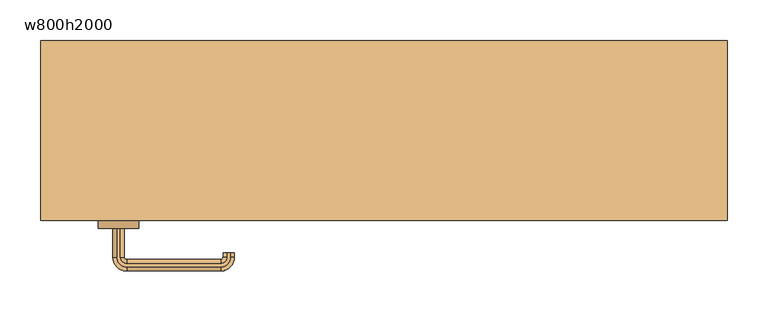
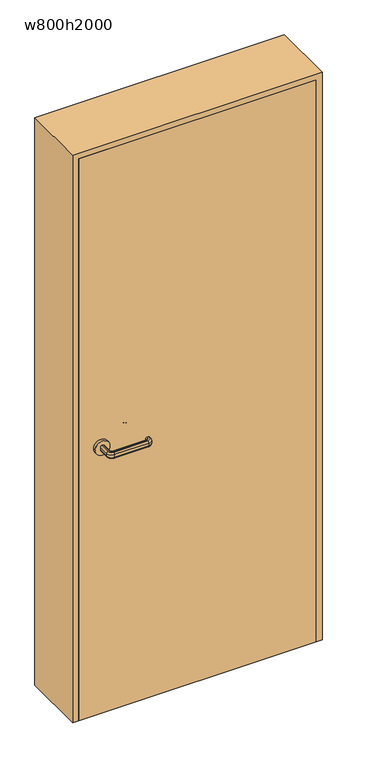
"""IFC4 building model written with IfcOpenShell, lengths in millimetres: door geometry, 片開 : w800h2000."""

from ifc_helpers import new_model, si_unit, point, frame, frame_2d, origin, origin_with_axes, place, context, project, spatial, polyline, circle_curve, ellipse_curve, trimmed, segment, composite_curve, outline, extrude, source, transform, mapped, element, save
from ifc_brep_helpers import plane_surface, cylinder_surface, revolved_surface, advanced_brep


def w800h2000_1d97c4d4(model_context):
    return source(origin(), model_context, "Body", "SolidModel", [
        advanced_brep(
        [(-327.0, -120.0, 960.0), (-323.0, -120.0, 960.0), (-318.0, -120.0, 955.0), (-318.0, -120.0, 945.0477623), (-323.0, -120.0, 940.0477623), (-327.0, -120.0, 940.0477623), (-332.0, -120.0, 945.0477623), (-332.0, -120.0, 955.0), (-332.0, -155.0, 955.0), (-327.0, -155.0, 960.0), (-332.0, -155.0, 945.0477623), (-327.0, -155.0, 940.0477623), (-323.0, -155.0, 940.0477623), (-315.0, -163.0, 940.0477623), (-200.0, -163.0, 940.0477623), (-192.0, -155.0, 940.0477623), (-192.0, -150.0, 940.0477623), (-188.0, -150.0, 940.0477623), (-188.0, -155.0, 940.0477623), (-200.0, -167.0, 940.0477623), (-315.0, -167.0, 940.0477623), (-318.0, -155.0, 945.0477623), (-318.0, -155.0, 955.0), (-323.0, -155.0, 960.0), (-315.0, -167.0, 960.0), (-200.0, -167.0, 960.0), (-188.0, -155.0, 960.0), (-188.0, -150.0, 960.0), (-192.0, -150.0, 960.0), (-192.0, -155.0, 960.0), (-200.0, -163.0, 960.0), (-315.0, -163.0, 960.0), (-315.0, -172.0, 955.0), (-315.0, -172.0, 945.0477623), (-315.0, -158.0, 945.0477623), (-315.0, -158.0, 955.0), (-200.0, -172.0, 955.0), (-200.0, -172.0, 945.0477623), (-200.0, -158.0, 945.0477623), (-200.0, -158.0, 955.0), (-183.0, -155.0, 955.0), (-183.0, -155.0, 945.0477623), (-197.0, -155.0, 945.0477623), (-197.0, -155.0, 955.0), (-183.0, -150.0, 955.0), (-183.0, -150.0, 945.0477623), (-197.0, -150.0, 945.0477623), (-197.0, -150.0, 955.0)],
        [
            (0, 1),
            (1, 2, circle_curve(frame((-323.0, -120.0, 955.0), z_axis=(0.0, 1.0, 0.0), x_axis=(-1.0, 0.0, 0.0)), 5.0)),
            (2, 3),
            (3, 4, circle_curve(frame((-323.0, -120.0, 945.0477623), z_axis=(0.0, 1.0, 0.0), x_axis=(-1.0, 0.0, 0.0)), 5.0)),
            (4, 5),
            (5, 6, circle_curve(frame((-327.0, -120.0, 945.0477623), z_axis=(0.0, 1.0, 0.0), x_axis=(-1.0, 0.0, 0.0)), 5.0)),
            (6, 7),
            (7, 0, circle_curve(frame((-327.0, -120.0, 955.0), z_axis=(0.0, 1.0, 0.0), x_axis=(-1.0, 0.0, 0.0)), 5.0)),
            (7, 8),
            (8, 9, circle_curve(frame((-327.0, -155.0, 955.0), z_axis=(0.0, 1.0, 0.0), x_axis=(-1.0, 0.0, 0.0)), 5.0)),
            (9, 0),
            (6, 10),
            (10, 8),
            (5, 11),
            (11, 10, circle_curve(frame((-327.0, -155.0, 945.0477623), z_axis=(0.0, 1.0, 0.0), x_axis=(-1.0, 0.0, 0.0)), 5.0)),
            (4, 12),
            (12, 13, circle_curve(frame((-315.0, -155.0, 940.0477623), z_axis=(0.0, 0.0, 1.0), x_axis=(-1.0, 0.0, 0.0)), 8.0)),
            (13, 14),
            (14, 15, circle_curve(frame((-200.0, -155.0, 940.0477623), z_axis=(0.0, 0.0, 1.0), x_axis=(0.0, -1.0, 0.0)), 8.0)),
            (15, 16),
            (16, 17),
            (17, 18),
            (18, 19, circle_curve(frame((-200.0, -155.0, 940.0477623), z_axis=(0.0, 0.0, -1.0), x_axis=(0.0, -1.0, 0.0)), 12.0)),
            (19, 20),
            (20, 11, circle_curve(frame((-315.0, -155.0, 940.0477623), z_axis=(0.0, 0.0, -1.0), x_axis=(-1.0, 0.0, 0.0)), 12.0)),
            (3, 21),
            (21, 12, circle_curve(frame((-323.0, -155.0, 945.0477623), z_axis=(0.0, 1.0, 0.0), x_axis=(-1.0, 0.0, 0.0)), 5.0)),
            (2, 22),
            (22, 21),
            (1, 23),
            (23, 22, circle_curve(frame((-323.0, -155.0, 955.0), z_axis=(0.0, 1.0, 0.0), x_axis=(-1.0, 0.0, 0.0)), 5.0)),
            (9, 24, circle_curve(frame((-315.0, -155.0, 960.0), z_axis=(0.0, 0.0, 1.0), x_axis=(-1.0, 0.0, 0.0)), 12.0)),
            (24, 25),
            (25, 26, circle_curve(frame((-200.0, -155.0, 960.0), z_axis=(0.0, 0.0, 1.0), x_axis=(0.0, -1.0, 0.0)), 12.0)),
            (26, 27),
            (27, 28),
            (28, 29),
            (29, 30, circle_curve(frame((-200.0, -155.0, 960.0), z_axis=(0.0, 0.0, -1.0), x_axis=(0.0, -1.0, 0.0)), 8.0)),
            (30, 31),
            (31, 23, circle_curve(frame((-315.0, -155.0, 960.0), z_axis=(0.0, 0.0, -1.0), x_axis=(-1.0, 0.0, 0.0)), 8.0)),
            (32, 24, circle_curve(frame((-315.0, -167.0, 955.0), z_axis=(-1.0, 0.0, 0.0), x_axis=(0.0, -1.0, 0.0)), 5.0)),
            (8, 32, circle_curve(frame((-315.0, -155.0, 955.0), z_axis=(0.0, 0.0, 1.0), x_axis=(-1.0, 0.0, 0.0)), 17.0)),
            (33, 32),
            (10, 33, circle_curve(frame((-315.0, -155.0, 945.0477623), z_axis=(0.0, 0.0, 1.0), x_axis=(-1.0, 0.0, 0.0)), 17.0)),
            (20, 33, circle_curve(frame((-315.0, -167.0, 945.0477623), z_axis=(-1.0, 0.0, 0.0), x_axis=(0.0, -1.0, 0.0)), 5.0)),
            (34, 13, circle_curve(frame((-315.0, -163.0, 945.0477623), z_axis=(-1.0, 0.0, 0.0), x_axis=(0.0, -1.0, 0.0)), 5.0)),
            (21, 34, circle_curve(frame((-315.0, -155.0, 945.0477623), z_axis=(0.0, 0.0, 1.0), x_axis=(-1.0, 0.0, 0.0)), 3.0)),
            (35, 34),
            (22, 35, circle_curve(frame((-315.0, -155.0, 955.0), z_axis=(0.0, 0.0, 1.0), x_axis=(-1.0, 0.0, 0.0)), 3.0)),
            (31, 35, circle_curve(frame((-315.0, -163.0, 955.0), z_axis=(-1.0, 0.0, 0.0), x_axis=(0.0, -1.0, 0.0)), 5.0)),
            (32, 36),
            (36, 25, circle_curve(frame((-200.0, -167.0, 955.0), z_axis=(-1.0, 0.0, 0.0), x_axis=(0.0, -1.0, 0.0)), 5.0)),
            (33, 37),
            (37, 36),
            (19, 37, circle_curve(frame((-200.0, -167.0, 945.0477623), z_axis=(-1.0, 0.0, 0.0), x_axis=(0.0, -1.0, 0.0)), 5.0)),
            (34, 38),
            (38, 14, circle_curve(frame((-200.0, -163.0, 945.0477623), z_axis=(-1.0, 0.0, 0.0), x_axis=(0.0, -1.0, 0.0)), 5.0)),
            (35, 39),
            (39, 38),
            (30, 39, circle_curve(frame((-200.0, -163.0, 955.0), z_axis=(-1.0, 0.0, 0.0), x_axis=(0.0, -1.0, 0.0)), 5.0)),
            (40, 26, circle_curve(frame((-188.0, -155.0, 955.0), z_axis=(0.0, -1.0, 0.0), x_axis=(1.0, 0.0, 0.0)), 5.0)),
            (36, 40, circle_curve(frame((-200.0, -155.0, 955.0), z_axis=(0.0, 0.0, 1.0), x_axis=(0.0, -1.0, 0.0)), 17.0)),
            (41, 40),
            (37, 41, circle_curve(frame((-200.0, -155.0, 945.0477623), z_axis=(0.0, 0.0, 1.0), x_axis=(0.0, -1.0, 0.0)), 17.0)),
            (18, 41, circle_curve(frame((-188.0, -155.0, 945.0477623), z_axis=(0.0, -1.0, 0.0), x_axis=(1.0, 0.0, 0.0)), 5.0)),
            (42, 15, circle_curve(frame((-192.0, -155.0, 945.0477623), z_axis=(0.0, -1.0, 0.0), x_axis=(1.0, 0.0, 0.0)), 5.0)),
            (38, 42, circle_curve(frame((-200.0, -155.0, 945.0477623), z_axis=(0.0, 0.0, 1.0), x_axis=(0.0, -1.0, 0.0)), 3.0)),
            (43, 42),
            (39, 43, circle_curve(frame((-200.0, -155.0, 955.0), z_axis=(0.0, 0.0, 1.0), x_axis=(0.0, -1.0, 0.0)), 3.0)),
            (29, 43, circle_curve(frame((-192.0, -155.0, 955.0), z_axis=(0.0, -1.0, 0.0), x_axis=(1.0, 0.0, 0.0)), 5.0)),
            (27, 44, circle_curve(frame((-188.0, -150.0, 955.0), z_axis=(0.0, 1.0, 0.0), x_axis=(1.0, 0.0, 0.0)), 5.0)),
            (44, 45),
            (45, 17, circle_curve(frame((-188.0, -150.0, 945.0477623), z_axis=(0.0, 1.0, 0.0), x_axis=(1.0, 0.0, 0.0)), 5.0)),
            (16, 46, circle_curve(frame((-192.0, -150.0, 945.0477623), z_axis=(0.0, 1.0, 0.0), x_axis=(1.0, 0.0, 0.0)), 5.0)),
            (46, 47),
            (47, 28, circle_curve(frame((-192.0, -150.0, 955.0), z_axis=(0.0, 1.0, 0.0), x_axis=(1.0, 0.0, 0.0)), 5.0)),
            (40, 44),
            (41, 45),
            (42, 46),
            (43, 47),
        ],
        [
            plane_surface(frame((-335.198039, -120.0, 950.0), z_axis=(0.0, 1.0, 0.0), x_axis=(0.0, 0.0, 1.0))),
            cylinder_surface(frame((-327.0, -120.0, 955.0), z_axis=(0.0, 1.0, 0.0), x_axis=(-1.0, 0.0, 0.0)), 5.0),
            plane_surface(frame((-332.0, -120.0, 955.0), z_axis=(-1.0, 0.0, 0.0), x_axis=(0.0, -1.0, 0.0))),
            cylinder_surface(frame((-327.0, -120.0, 945.0477623), z_axis=(0.0, 1.0, 0.0), x_axis=(-1.0, 0.0, 0.0)), 5.0),
            plane_surface(frame((-327.0, -120.0, 940.0477623), z_axis=(0.0, 0.0, -1.0), x_axis=(0.0, -1.0, 0.0))),
            cylinder_surface(frame((-323.0, -120.0, 945.0477623), z_axis=(0.0, 1.0, 0.0), x_axis=(-1.0, 0.0, 0.0)), 5.0),
            plane_surface(frame((-318.0, -120.0, 945.0477623), z_axis=(1.0, 0.0, 0.0), x_axis=(0.0, -1.0, 0.0))),
            cylinder_surface(frame((-323.0, -120.0, 955.0), z_axis=(0.0, 1.0, 0.0), x_axis=(-1.0, 0.0, 0.0)), 5.0),
            plane_surface(frame((-323.0, -120.0, 960.0), z_axis=(0.0, 0.0, 1.0), x_axis=(0.0, -1.0, 0.0))),
            revolved_surface(trimmed(ellipse_curve(frame((-327.0, -155.0, 955.0), z_axis=(0.0, -1.0, 0.0), x_axis=(-1.0, 0.0, 0.0)), 5.0, 5.0), [point((-327.0, -155.0, 960.0))], [point((-332.0, -155.0, 955.0))], True, "CARTESIAN"), (-315.0, -155.0, 950.0), (0.0, 0.0, -1.0)),
            cylinder_surface(frame((-315.0, -155.0, 950.0), z_axis=(0.0, 0.0, -1.0), x_axis=(-1.0, 0.0, 0.0)), 17.0),
            revolved_surface(trimmed(ellipse_curve(frame((-327.0, -155.0, 945.0477623), z_axis=(0.0, -1.0, 0.0), x_axis=(-1.0, 0.0, 0.0)), 5.0, 5.0), [point((-332.0, -155.0, 945.0477623))], [point((-327.0, -155.0, 940.0477623))], True, "CARTESIAN"), (-315.0, -155.0, 950.0), (0.0, 0.0, -1.0)),
            revolved_surface(trimmed(ellipse_curve(frame((-323.0, -155.0, 945.0477623), z_axis=(0.0, -1.0, 0.0), x_axis=(-1.0, 0.0, 0.0)), 5.0, 5.0), [point((-323.0, -155.0, 940.0477623))], [point((-318.0, -155.0, 945.0477623))], True, "CARTESIAN"), (-315.0, -155.0, 950.0), (0.0, 0.0, -1.0)),
            revolved_surface(polyline([(-318.0, -155.0, 945.0477623), (-318.0, -155.0, 955.0)]), (-315.0, -155.0, 950.0), (0.0, 0.0, -1.0)),
            revolved_surface(trimmed(ellipse_curve(frame((-323.0, -155.0, 955.0), z_axis=(0.0, -1.0, 0.0), x_axis=(-1.0, 0.0, 0.0)), 5.0, 5.0), [point((-318.0, -155.0, 955.0))], [point((-323.0, -155.0, 960.0))], True, "CARTESIAN"), (-315.0, -155.0, 950.0), (0.0, 0.0, -1.0)),
            cylinder_surface(frame((-315.0, -167.0, 955.0), z_axis=(-1.0, 0.0, 0.0), x_axis=(0.0, -1.0, 0.0)), 5.0),
            plane_surface(frame((-315.0, -172.0, 955.0), z_axis=(0.0, -1.0, 0.0), x_axis=(1.0, 0.0, 0.0))),
            cylinder_surface(frame((-315.0, -167.0, 945.0477623), z_axis=(-1.0, 0.0, 0.0), x_axis=(0.0, -1.0, 0.0)), 5.0),
            cylinder_surface(frame((-315.0, -163.0, 945.0477623), z_axis=(-1.0, 0.0, 0.0), x_axis=(0.0, -1.0, 0.0)), 5.0),
            plane_surface(frame((-315.0, -158.0, 945.0477623), z_axis=(0.0, 1.0, 0.0), x_axis=(1.0, 0.0, 0.0))),
            cylinder_surface(frame((-315.0, -163.0, 955.0), z_axis=(-1.0, 0.0, 0.0), x_axis=(0.0, -1.0, 0.0)), 5.0),
            revolved_surface(trimmed(ellipse_curve(frame((-200.0, -167.0, 955.0), z_axis=(1.0, 0.0, 0.0), x_axis=(0.0, -1.0, 0.0)), 5.0, 5.0), [point((-200.0, -167.0, 960.0))], [point((-200.0, -172.0, 955.0))], True, "CARTESIAN"), (-200.0, -155.0, 950.0), (0.0, 0.0, -1.0)),
            cylinder_surface(frame((-200.0, -155.0, 950.0), z_axis=(0.0, 0.0, -1.0), x_axis=(0.0, -1.0, 0.0)), 17.0),
            revolved_surface(trimmed(ellipse_curve(frame((-200.0, -167.0, 945.0477623), z_axis=(1.0, 0.0, 0.0), x_axis=(0.0, -1.0, 0.0)), 5.0, 5.0), [point((-200.0, -172.0, 945.0477623))], [point((-200.0, -167.0, 940.0477623))], True, "CARTESIAN"), (-200.0, -155.0, 950.0), (0.0, 0.0, -1.0)),
            revolved_surface(trimmed(ellipse_curve(frame((-200.0, -163.0, 945.0477623), z_axis=(1.0, 0.0, 0.0), x_axis=(0.0, -1.0, 0.0)), 5.0, 5.0), [point((-200.0, -163.0, 940.0477623))], [point((-200.0, -158.0, 945.0477623))], True, "CARTESIAN"), (-200.0, -155.0, 950.0), (0.0, 0.0, -1.0)),
            revolved_surface(polyline([(-200.0, -158.0, 945.0477623), (-200.0, -158.0, 955.0)]), (-200.0, -155.0, 950.0), (0.0, 0.0, -1.0)),
            revolved_surface(trimmed(ellipse_curve(frame((-200.0, -163.0, 955.0), z_axis=(1.0, 0.0, 0.0), x_axis=(0.0, -1.0, 0.0)), 5.0, 5.0), [point((-200.0, -158.0, 955.0))], [point((-200.0, -163.0, 960.0))], True, "CARTESIAN"), (-200.0, -155.0, 950.0), (0.0, 0.0, -1.0)),
            plane_surface(frame((-200.198039, -150.0, 950.0), z_axis=(0.0, 1.0, 0.0), x_axis=(0.0, 0.0, -1.0))),
            cylinder_surface(frame((-188.0, -155.0, 955.0), z_axis=(0.0, -1.0, 0.0), x_axis=(1.0, 0.0, 0.0)), 5.0),
            plane_surface(frame((-183.0, -155.0, 955.0), z_axis=(1.0, 0.0, 0.0), x_axis=(0.0, 1.0, 0.0))),
            cylinder_surface(frame((-188.0, -155.0, 945.0477623), z_axis=(0.0, -1.0, 0.0), x_axis=(1.0, 0.0, 0.0)), 5.0),
            cylinder_surface(frame((-192.0, -155.0, 945.0477623), z_axis=(0.0, -1.0, 0.0), x_axis=(1.0, 0.0, 0.0)), 5.0),
            plane_surface(frame((-197.0, -155.0, 945.0477623), z_axis=(-1.0, 0.0, 0.0), x_axis=(0.0, 1.0, 0.0))),
            cylinder_surface(frame((-192.0, -155.0, 955.0), z_axis=(0.0, -1.0, 0.0), x_axis=(1.0, 0.0, 0.0)), 5.0),
        ],
        [
            (0, [[1, 2, 3, 4, 5, 6, 7, 8]]),
            (1, [[9, 10, 11, -8]]),
            (2, [[12, 13, -9, -7]]),
            (3, [[14, 15, -12, -6]]),
            (4, [[16, 17, 18, 19, 20, 21, 22, 23, 24, 25, -14, -5]]),
            (5, [[26, 27, -16, -4]]),
            (6, [[28, 29, -26, -3]]),
            (7, [[30, 31, -28, -2]]),
            (8, [[-11, 32, 33, 34, 35, 36, 37, 38, 39, 40, -30, -1]]),
            (9, [[41, -32, -10, 42]]),
            (10, [[43, -42, -13, 44]]),
            (11, [[45, -44, -15, -25]]),
            (12, [[46, -17, -27, 47]]),
            (13, [[48, -47, -29, 49]]),
            (14, [[50, -49, -31, -40]]),
            (15, [[51, 52, -33, -41]]),
            (16, [[53, 54, -51, -43]]),
            (17, [[-24, 55, -53, -45]]),
            (18, [[56, 57, -18, -46]]),
            (19, [[58, 59, -56, -48]]),
            (20, [[-39, 60, -58, -50]]),
            (21, [[61, -34, -52, 62]]),
            (22, [[63, -62, -54, 64]]),
            (23, [[65, -64, -55, -23]]),
            (24, [[66, -19, -57, 67]]),
            (25, [[68, -67, -59, 69]]),
            (26, [[70, -69, -60, -38]]),
            (27, [[71, 72, 73, -21, 74, 75, 76, -36]]),
            (28, [[77, -71, -35, -61]]),
            (29, [[78, -72, -77, -63]]),
            (30, [[-22, -73, -78, -65]]),
            (31, [[79, -74, -20, -66]]),
            (32, [[80, -75, -79, -68]]),
            (33, [[-37, -76, -80, -70]]),
        ],
    ),
        advanced_brep(
        [(-323.0, -70.0, 940.0), (-318.0, -70.0, 945.0), (-318.0, -70.0, 955.0), (-323.0, -70.0, 960.0), (-327.0, -70.0, 960.0), (-332.0, -70.0, 955.0), (-332.0, -70.0, 945.0), (-327.0, -70.0, 940.0), (-327.0, -35.0, 940.0), (-315.0, -23.0, 940.0), (-200.0, -23.0, 940.0), (-188.0, -35.0, 940.0), (-188.0, -40.0, 940.0), (-192.0, -40.0, 940.0), (-192.0, -35.0, 940.0), (-200.0, -27.0, 940.0), (-315.0, -27.0, 940.0), (-323.0, -35.0, 940.0), (-332.0, -35.0, 945.0), (-332.0, -35.0, 955.0), (-327.0, -35.0, 960.0), (-323.0, -35.0, 960.0), (-315.0, -27.0, 960.0), (-200.0, -27.0, 960.0), (-192.0, -35.0, 960.0), (-192.0, -40.0, 960.0), (-188.0, -40.0, 960.0), (-188.0, -35.0, 960.0), (-200.0, -23.0, 960.0), (-315.0, -23.0, 960.0), (-318.0, -35.0, 955.0), (-318.0, -35.0, 945.0), (-315.0, -18.0, 945.0), (-315.0, -18.0, 955.0), (-315.0, -32.0, 955.0), (-315.0, -32.0, 945.0), (-200.0, -18.0, 945.0), (-200.0, -18.0, 955.0), (-200.0, -32.0, 955.0), (-200.0, -32.0, 945.0), (-183.0, -35.0, 945.0), (-183.0, -35.0, 955.0), (-197.0, -35.0, 955.0), (-197.0, -35.0, 945.0), (-183.0, -40.0, 945.0), (-183.0, -40.0, 955.0), (-197.0, -40.0, 955.0), (-197.0, -40.0, 945.0)],
        [
            (0, 1, circle_curve(frame((-323.0, -70.0, 945.0), z_axis=(0.0, -1.0, 0.0), x_axis=(1.0, 0.0, 0.0)), 5.0)),
            (1, 2),
            (2, 3, circle_curve(frame((-323.0, -70.0, 955.0), z_axis=(0.0, -1.0, 0.0), x_axis=(1.0, 0.0, 0.0)), 5.0)),
            (3, 4),
            (4, 5, circle_curve(frame((-327.0, -70.0, 955.0), z_axis=(0.0, -1.0, 0.0), x_axis=(1.0, 0.0, 0.0)), 5.0)),
            (5, 6),
            (6, 7, circle_curve(frame((-327.0, -70.0, 945.0), z_axis=(0.0, -1.0, 0.0), x_axis=(1.0, 0.0, 0.0)), 5.0)),
            (7, 0),
            (7, 8),
            (8, 9, circle_curve(frame((-315.0, -35.0, 940.0), z_axis=(0.0, 0.0, -1.0), x_axis=(-1.0, 0.0, 0.0)), 12.0)),
            (9, 10),
            (10, 11, circle_curve(frame((-200.0, -35.0, 940.0), z_axis=(0.0, 0.0, -1.0), x_axis=(0.0, 1.0, 0.0)), 12.0)),
            (11, 12),
            (12, 13),
            (13, 14),
            (14, 15, circle_curve(frame((-200.0, -35.0, 940.0), z_axis=(0.0, 0.0, 1.0), x_axis=(0.0, 1.0, 0.0)), 8.0)),
            (15, 16),
            (16, 17, circle_curve(frame((-315.0, -35.0, 940.0), z_axis=(0.0, 0.0, 1.0), x_axis=(-1.0, 0.0, 0.0)), 8.0)),
            (17, 0),
            (6, 18),
            (18, 8, circle_curve(frame((-327.0, -35.0, 945.0), z_axis=(0.0, -1.0, 0.0), x_axis=(1.0, 0.0, 0.0)), 5.0)),
            (5, 19),
            (19, 18),
            (4, 20),
            (20, 19, circle_curve(frame((-327.0, -35.0, 955.0), z_axis=(0.0, -1.0, 0.0), x_axis=(1.0, 0.0, 0.0)), 5.0)),
            (3, 21),
            (21, 22, circle_curve(frame((-315.0, -35.0, 960.0), z_axis=(0.0, 0.0, -1.0), x_axis=(-1.0, 0.0, 0.0)), 8.0)),
            (22, 23),
            (23, 24, circle_curve(frame((-200.0, -35.0, 960.0), z_axis=(0.0, 0.0, -1.0), x_axis=(0.0, 1.0, 0.0)), 8.0)),
            (24, 25),
            (25, 26),
            (26, 27),
            (27, 28, circle_curve(frame((-200.0, -35.0, 960.0), z_axis=(0.0, 0.0, 1.0), x_axis=(0.0, 1.0, 0.0)), 12.0)),
            (28, 29),
            (29, 20, circle_curve(frame((-315.0, -35.0, 960.0), z_axis=(0.0, 0.0, 1.0), x_axis=(-1.0, 0.0, 0.0)), 12.0)),
            (2, 30),
            (30, 21, circle_curve(frame((-323.0, -35.0, 955.0), z_axis=(0.0, -1.0, 0.0), x_axis=(1.0, 0.0, 0.0)), 5.0)),
            (1, 31),
            (31, 30),
            (17, 31, circle_curve(frame((-323.0, -35.0, 945.0), z_axis=(0.0, -1.0, 0.0), x_axis=(1.0, 0.0, 0.0)), 5.0)),
            (32, 9, circle_curve(frame((-315.0, -23.0, 945.0), z_axis=(-1.0, 0.0, 0.0), x_axis=(0.0, -1.0, 0.0)), 5.0)),
            (18, 32, circle_curve(frame((-315.0, -35.0, 945.0), z_axis=(0.0, 0.0, -1.0), x_axis=(-1.0, 0.0, 0.0)), 17.0)),
            (33, 32),
            (19, 33, circle_curve(frame((-315.0, -35.0, 955.0), z_axis=(0.0, 0.0, -1.0), x_axis=(-1.0, 0.0, 0.0)), 17.0)),
            (29, 33, circle_curve(frame((-315.0, -23.0, 955.0), z_axis=(-1.0, 0.0, 0.0), x_axis=(0.0, -1.0, 0.0)), 5.0)),
            (34, 22, circle_curve(frame((-315.0, -27.0, 955.0), z_axis=(-1.0, 0.0, 0.0), x_axis=(0.0, -1.0, 0.0)), 5.0)),
            (30, 34, circle_curve(frame((-315.0, -35.0, 955.0), z_axis=(0.0, 0.0, -1.0), x_axis=(-1.0, 0.0, 0.0)), 3.0)),
            (35, 34),
            (31, 35, circle_curve(frame((-315.0, -35.0, 945.0), z_axis=(0.0, 0.0, -1.0), x_axis=(-1.0, 0.0, 0.0)), 3.0)),
            (16, 35, circle_curve(frame((-315.0, -27.0, 945.0), z_axis=(-1.0, 0.0, 0.0), x_axis=(0.0, -1.0, 0.0)), 5.0)),
            (32, 36),
            (36, 10, circle_curve(frame((-200.0, -23.0, 945.0), z_axis=(-1.0, 0.0, 0.0), x_axis=(0.0, -1.0, 0.0)), 5.0)),
            (33, 37),
            (37, 36),
            (28, 37, circle_curve(frame((-200.0, -23.0, 955.0), z_axis=(-1.0, 0.0, 0.0), x_axis=(0.0, -1.0, 0.0)), 5.0)),
            (34, 38),
            (38, 23, circle_curve(frame((-200.0, -27.0, 955.0), z_axis=(-1.0, 0.0, 0.0), x_axis=(0.0, -1.0, 0.0)), 5.0)),
            (35, 39),
            (39, 38),
            (15, 39, circle_curve(frame((-200.0, -27.0, 945.0), z_axis=(-1.0, 0.0, 0.0), x_axis=(0.0, -1.0, 0.0)), 5.0)),
            (40, 11, circle_curve(frame((-188.0, -35.0, 945.0), z_axis=(0.0, 1.0, 0.0), x_axis=(-1.0, 0.0, 0.0)), 5.0)),
            (36, 40, circle_curve(frame((-200.0, -35.0, 945.0), z_axis=(0.0, 0.0, -1.0), x_axis=(0.0, 1.0, 0.0)), 17.0)),
            (41, 40),
            (37, 41, circle_curve(frame((-200.0, -35.0, 955.0), z_axis=(0.0, 0.0, -1.0), x_axis=(0.0, 1.0, 0.0)), 17.0)),
            (27, 41, circle_curve(frame((-188.0, -35.0, 955.0), z_axis=(0.0, 1.0, 0.0), x_axis=(-1.0, 0.0, 0.0)), 5.0)),
            (42, 24, circle_curve(frame((-192.0, -35.0, 955.0), z_axis=(0.0, 1.0, 0.0), x_axis=(-1.0, 0.0, 0.0)), 5.0)),
            (38, 42, circle_curve(frame((-200.0, -35.0, 955.0), z_axis=(0.0, 0.0, -1.0), x_axis=(0.0, 1.0, 0.0)), 3.0)),
            (43, 42),
            (39, 43, circle_curve(frame((-200.0, -35.0, 945.0), z_axis=(0.0, 0.0, -1.0), x_axis=(0.0, 1.0, 0.0)), 3.0)),
            (14, 43, circle_curve(frame((-192.0, -35.0, 945.0), z_axis=(0.0, 1.0, 0.0), x_axis=(-1.0, 0.0, 0.0)), 5.0)),
            (12, 44, circle_curve(frame((-188.0, -40.0, 945.0), z_axis=(0.0, -1.0, 0.0), x_axis=(-1.0, 0.0, 0.0)), 5.0)),
            (44, 45),
            (45, 26, circle_curve(frame((-188.0, -40.0, 955.0), z_axis=(0.0, -1.0, 0.0), x_axis=(-1.0, 0.0, 0.0)), 5.0)),
            (25, 46, circle_curve(frame((-192.0, -40.0, 955.0), z_axis=(0.0, -1.0, 0.0), x_axis=(-1.0, 0.0, 0.0)), 5.0)),
            (46, 47),
            (47, 13, circle_curve(frame((-192.0, -40.0, 945.0), z_axis=(0.0, -1.0, 0.0), x_axis=(-1.0, 0.0, 0.0)), 5.0)),
            (40, 44),
            (41, 45),
            (42, 46),
            (43, 47),
        ],
        [
            plane_surface(frame((-335.198039, -70.0, 950.0), z_axis=(0.0, -1.0, 0.0), x_axis=(0.0, 0.0, -1.0))),
            plane_surface(frame((-323.0, -70.0, 940.0), z_axis=(0.0, 0.0, -1.0), x_axis=(0.0, 1.0, 0.0))),
            cylinder_surface(frame((-327.0, -70.0, 945.0), z_axis=(0.0, -1.0, 0.0), x_axis=(1.0, 0.0, 0.0)), 5.0),
            plane_surface(frame((-332.0, -70.0, 945.0), z_axis=(-1.0, 0.0, 0.0), x_axis=(0.0, 1.0, 0.0))),
            cylinder_surface(frame((-327.0, -70.0, 955.0), z_axis=(0.0, -1.0, 0.0), x_axis=(1.0, 0.0, 0.0)), 5.0),
            plane_surface(frame((-327.0, -70.0, 960.0), z_axis=(0.0, 0.0, 1.0), x_axis=(0.0, 1.0, 0.0))),
            cylinder_surface(frame((-323.0, -70.0, 955.0), z_axis=(0.0, -1.0, 0.0), x_axis=(1.0, 0.0, 0.0)), 5.0),
            plane_surface(frame((-318.0, -70.0, 955.0), z_axis=(1.0, 0.0, 0.0), x_axis=(0.0, 1.0, 0.0))),
            cylinder_surface(frame((-323.0, -70.0, 945.0), z_axis=(0.0, -1.0, 0.0), x_axis=(1.0, 0.0, 0.0)), 5.0),
            revolved_surface(trimmed(ellipse_curve(frame((-327.0, -35.0, 945.0), z_axis=(0.0, 1.0, 0.0), x_axis=(1.0, 0.0, 0.0)), 5.0, 5.0), [point((-327.0, -35.0, 940.0))], [point((-332.0, -35.0, 945.0))], True, "CARTESIAN"), (-315.0, -35.0, 950.0), (0.0, 0.0, 1.0)),
            cylinder_surface(frame((-315.0, -35.0, 950.0), z_axis=(0.0, 0.0, 1.0), x_axis=(-1.0, 0.0, 0.0)), 17.0),
            revolved_surface(trimmed(ellipse_curve(frame((-327.0, -35.0, 955.0), z_axis=(0.0, 1.0, 0.0), x_axis=(1.0, 0.0, 0.0)), 5.0, 5.0), [point((-332.0, -35.0, 955.0))], [point((-327.0, -35.0, 960.0))], True, "CARTESIAN"), (-315.0, -35.0, 950.0), (0.0, 0.0, 1.0)),
            revolved_surface(trimmed(ellipse_curve(frame((-323.0, -35.0, 955.0), z_axis=(0.0, 1.0, 0.0), x_axis=(1.0, 0.0, 0.0)), 5.0, 5.0), [point((-323.0, -35.0, 960.0))], [point((-318.0, -35.0, 955.0))], True, "CARTESIAN"), (-315.0, -35.0, 950.0), (0.0, 0.0, 1.0)),
            revolved_surface(polyline([(-318.0, -35.0, 955.0), (-318.0, -35.0, 945.0)]), (-315.0, -35.0, 950.0), (0.0, 0.0, 1.0)),
            revolved_surface(trimmed(ellipse_curve(frame((-323.0, -35.0, 945.0), z_axis=(0.0, 1.0, 0.0), x_axis=(1.0, 0.0, 0.0)), 5.0, 5.0), [point((-318.0, -35.0, 945.0))], [point((-323.0, -35.0, 940.0))], True, "CARTESIAN"), (-315.0, -35.0, 950.0), (0.0, 0.0, 1.0)),
            cylinder_surface(frame((-315.0, -23.0, 945.0), z_axis=(-1.0, 0.0, 0.0), x_axis=(0.0, -1.0, 0.0)), 5.0),
            plane_surface(frame((-315.0, -18.0, 945.0), z_axis=(0.0, 1.0, 0.0), x_axis=(1.0, 0.0, 0.0))),
            cylinder_surface(frame((-315.0, -23.0, 955.0), z_axis=(-1.0, 0.0, 0.0), x_axis=(0.0, -1.0, 0.0)), 5.0),
            cylinder_surface(frame((-315.0, -27.0, 955.0), z_axis=(-1.0, 0.0, 0.0), x_axis=(0.0, -1.0, 0.0)), 5.0),
            plane_surface(frame((-315.0, -32.0, 955.0), z_axis=(0.0, -1.0, 0.0), x_axis=(1.0, 0.0, 0.0))),
            cylinder_surface(frame((-315.0, -27.0, 945.0), z_axis=(-1.0, 0.0, 0.0), x_axis=(0.0, -1.0, 0.0)), 5.0),
            revolved_surface(trimmed(ellipse_curve(frame((-200.0, -23.0, 945.0), z_axis=(1.0, 0.0, 0.0), x_axis=(0.0, -1.0, 0.0)), 5.0, 5.0), [point((-200.0, -23.0, 940.0))], [point((-200.0, -18.0, 945.0))], True, "CARTESIAN"), (-200.0, -35.0, 950.0), (0.0, 0.0, 1.0)),
            cylinder_surface(frame((-200.0, -35.0, 950.0), z_axis=(0.0, 0.0, 1.0), x_axis=(0.0, 1.0, 0.0)), 17.0),
            revolved_surface(trimmed(ellipse_curve(frame((-200.0, -23.0, 955.0), z_axis=(1.0, 0.0, 0.0), x_axis=(0.0, -1.0, 0.0)), 5.0, 5.0), [point((-200.0, -18.0, 955.0))], [point((-200.0, -23.0, 960.0))], True, "CARTESIAN"), (-200.0, -35.0, 950.0), (0.0, 0.0, 1.0)),
            revolved_surface(trimmed(ellipse_curve(frame((-200.0, -27.0, 955.0), z_axis=(1.0, 0.0, 0.0), x_axis=(0.0, -1.0, 0.0)), 5.0, 5.0), [point((-200.0, -27.0, 960.0))], [point((-200.0, -32.0, 955.0))], True, "CARTESIAN"), (-200.0, -35.0, 950.0), (0.0, 0.0, 1.0)),
            revolved_surface(polyline([(-200.0, -32.0, 955.0), (-200.0, -32.0, 945.0)]), (-200.0, -35.0, 950.0), (0.0, 0.0, 1.0)),
            revolved_surface(trimmed(ellipse_curve(frame((-200.0, -27.0, 945.0), z_axis=(1.0, 0.0, 0.0), x_axis=(0.0, -1.0, 0.0)), 5.0, 5.0), [point((-200.0, -32.0, 945.0))], [point((-200.0, -27.0, 940.0))], True, "CARTESIAN"), (-200.0, -35.0, 950.0), (0.0, 0.0, 1.0)),
            plane_surface(frame((-200.198039, -40.0, 950.0), z_axis=(0.0, -1.0, 0.0), x_axis=(0.0, 0.0, 1.0))),
            cylinder_surface(frame((-188.0, -35.0, 945.0), z_axis=(0.0, 1.0, 0.0), x_axis=(-1.0, 0.0, 0.0)), 5.0),
            plane_surface(frame((-183.0, -35.0, 945.0), z_axis=(1.0, 0.0, 0.0), x_axis=(0.0, -1.0, 0.0))),
            cylinder_surface(frame((-188.0, -35.0, 955.0), z_axis=(0.0, 1.0, 0.0), x_axis=(-1.0, 0.0, 0.0)), 5.0),
            cylinder_surface(frame((-192.0, -35.0, 955.0), z_axis=(0.0, 1.0, 0.0), x_axis=(-1.0, 0.0, 0.0)), 5.0),
            plane_surface(frame((-197.0, -35.0, 955.0), z_axis=(-1.0, 0.0, 0.0), x_axis=(0.0, -1.0, 0.0))),
            cylinder_surface(frame((-192.0, -35.0, 945.0), z_axis=(0.0, 1.0, 0.0), x_axis=(-1.0, 0.0, 0.0)), 5.0),
        ],
        [
            (0, [[1, 2, 3, 4, 5, 6, 7, 8]]),
            (1, [[9, 10, 11, 12, 13, 14, 15, 16, 17, 18, 19, -8]]),
            (2, [[20, 21, -9, -7]]),
            (3, [[22, 23, -20, -6]]),
            (4, [[24, 25, -22, -5]]),
            (5, [[26, 27, 28, 29, 30, 31, 32, 33, 34, 35, -24, -4]]),
            (6, [[36, 37, -26, -3]]),
            (7, [[38, 39, -36, -2]]),
            (8, [[-19, 40, -38, -1]]),
            (9, [[41, -10, -21, 42]]),
            (10, [[43, -42, -23, 44]]),
            (11, [[45, -44, -25, -35]]),
            (12, [[46, -27, -37, 47]]),
            (13, [[48, -47, -39, 49]]),
            (14, [[50, -49, -40, -18]]),
            (15, [[51, 52, -11, -41]]),
            (16, [[53, 54, -51, -43]]),
            (17, [[-34, 55, -53, -45]]),
            (18, [[56, 57, -28, -46]]),
            (19, [[58, 59, -56, -48]]),
            (20, [[-17, 60, -58, -50]]),
            (21, [[61, -12, -52, 62]]),
            (22, [[63, -62, -54, 64]]),
            (23, [[65, -64, -55, -33]]),
            (24, [[66, -29, -57, 67]]),
            (25, [[68, -67, -59, 69]]),
            (26, [[70, -69, -60, -16]]),
            (27, [[-14, 71, 72, 73, -31, 74, 75, 76]]),
            (28, [[77, -71, -13, -61]]),
            (29, [[78, -72, -77, -63]]),
            (30, [[-32, -73, -78, -65]]),
            (31, [[79, -74, -30, -66]]),
            (32, [[80, -75, -79, -68]]),
            (33, [[-15, -76, -80, -70]]),
        ],
    ),
        extrude(outline(composite_curve([segment(trimmed(circle_curve(frame_2d((950.0, -325.0)), 25.0), [point((950.0, -350.0))], [point((950.0, -300.0))], False, "CARTESIAN"), True, "CONTINUOUS"), segment(trimmed(circle_curve(frame_2d((950.0, -325.0)), 25.0), [point((950.0, -300.0))], [point((950.0, -350.0))], False, "CARTESIAN"), True, "CONTINUOUS")], self_intersect=False)), frame((0.0, -120.0, 0.0), z_axis=(0.0, 1.0, 0.0), x_axis=(0.0, 0.0, 1.0)), (0.0, 0.0, 1.0), 10.0),
        extrude(outline(composite_curve([segment(trimmed(circle_curve(frame_2d((950.0, -325.0)), 25.0), [point((950.0, -350.0))], [point((950.0, -300.0))], False, "CARTESIAN"), True, "CONTINUOUS"), segment(trimmed(circle_curve(frame_2d((950.0, -325.0)), 25.0), [point((950.0, -300.0))], [point((950.0, -350.0))], False, "CARTESIAN"), True, "CONTINUOUS")], self_intersect=False)), frame((0.0, -80.0, 0.0), z_axis=(0.0, 1.0, 0.0), x_axis=(0.0, 0.0, 1.0)), (0.0, 0.0, 1.0), 10.0),
        extrude(outline(polyline([(2020.0, -420.0), (0.0, -420.0), (0.0, -400.0), (2000.0, -400.0), (2000.0, 400.0), (0.0, 400.0), (0.0, 420.0), (2020.0, 420.0), (2020.0, -420.0)])), frame((0.0, -110.0, 0.0), z_axis=(0.0, 1.0, 0.0), x_axis=(0.0, 0.0, 1.0)), (0.0, 0.0, 1.0), 220.0),
        extrude(outline(polyline([(400.0, -80.0), (400.0, -110.0), (-400.0, -110.0), (-400.0, -80.0), (400.0, -80.0)])), origin_with_axes(), (0.0, 0.0, 1.0), 2000.0),
    ])


if __name__ == "__main__":
    model = new_model("IFC4")
    model_context = context("Model", 3, world=origin())
    ifc_project = project(units=[si_unit("LENGTHUNIT", "METRE", prefix="MILLI")], contexts=[model_context])
    site = spatial("IfcSite", under=ifc_project)
    building = spatial("IfcBuilding", under=site)
    placement = place(None, origin())
    w800h2000_shape = w800h2000_1d97c4d4(model_context)
    element("IfcDoor", 1, ObjectType="片開 : w800h2000", at=placement, inside=building, context=model_context, shape_type="MappedRepresentation", body=[
        mapped(w800h2000_shape, transform((0.0, 0.0, 0.0), x_axis=(1.0, 0.0, 0.0), y_axis=(0.0, 1.0, 0.0), z_axis=(0.0, 0.0, 1.0))),
    ])
    save(model, "model.ifc")
